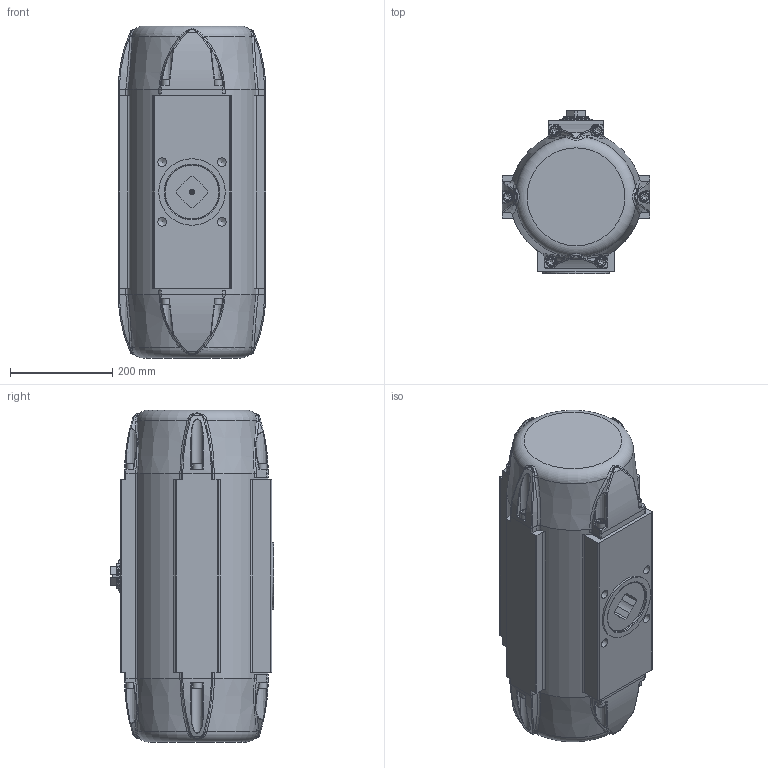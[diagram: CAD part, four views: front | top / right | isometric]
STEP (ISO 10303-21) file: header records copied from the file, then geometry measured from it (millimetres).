
FILE_DESCRIPTION(/* description */ (''),/* implementation_level */ '2;1');
FILE_NAME(/* name */ 'C:\Users\war\Desktop\BR03C_SAF_43.stp',/* time_stamp */ '2021-05-05T10:27:54+02:00',/* author */ ('war'),/* organization */ (''),/* preprocessor_version */ 'ST-DEVELOPER v18.1',/* originating_system */ 'Autodesk Inventor 2021',/* authorisation */ '');
FILE_SCHEMA (('AUTOMOTIVE_DESIGN { 1 0 10303 214 3 1 1 }'));
Products named in the file (1): ENG-073103_Shrinkwrap_1
Bounding box: 288 x 320 x 649 mm (x, y, z)
Volume: 18252116.9 mm3; surface area: 2069330.4 mm2
Topology: 1 solids, 1 shells, 1985 faces, 5427 edges, 3477 vertices
Faces by surface type: cylinder 603, bspline 569, plane 519, torus 171, cone 123
Full cylindrical faces by diameter (mm): 2.5 x2, 4.134 x4, 4.917 x5, 8 x1, 8.376 x2, 10.106 x1, 17.294 x4, 18 x12, 18.631 x2, 37 x1, 40 x4, 40.3 x10, 42 x2, 44 x4, 44.1 x2, 45 x1, 46 x1, 46.1 x1, 47.6 x4, 49.6 x3, 50 x2, 50.1 x1, 61 x1, 63 x1, 75 x1, 80 x1, 99.1 x2, 101 x1, 105.8 x3, 106 x2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
Entity records: 88172 total; most frequent: CARTESIAN_POINT 39519, ORIENTED_EDGE 10766, DIRECTION 8595, EDGE_CURVE 5383, AXIS2_PLACEMENT_3D 3501, VERTEX_POINT 3477, EDGE_LOOP 2097, STYLED_ITEM 1986
